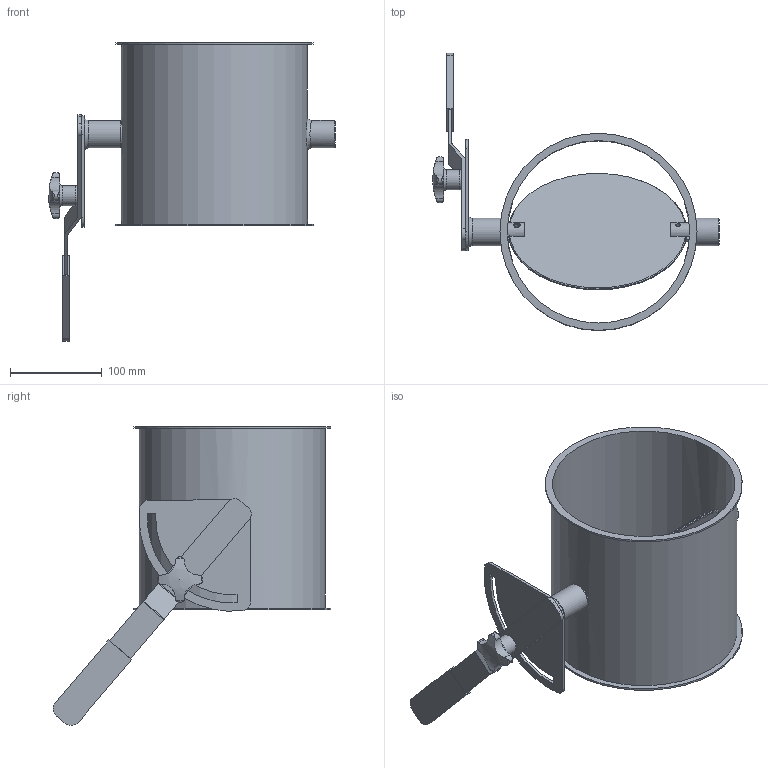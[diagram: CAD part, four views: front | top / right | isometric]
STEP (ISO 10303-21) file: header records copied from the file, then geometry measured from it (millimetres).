
FILE_DESCRIPTION((''),'2;1');
FILE_NAME('U:\Wolfgang\Marcel-3D\fertig\Kapitel 8\2021075.stp','2012-01-13T11:09:27',('iwienholt'),(''),'Autodesk Inventor 2010','Autodesk Inventor 2010','');
FILE_SCHEMA(('AUTOMOTIVE_DESIGN { 1 0 10303 214 1 1 1 1 }'));
Length unit declared in the file: millimetre
Products named in the file (7): 2021075; 2021075-1; Bolzen D20; ganter_din_6335-ku-50-m10-k; Griff D20; Scheibe200; Umstellsegment D20
Assembly tree (6 placements, depth 2):
  2021075
    2021075-1
    Bolzen D20
    ganter_din_6335-ku-50-m10-k
    Griff D20
    Scheibe200
    Umstellsegment D20
Bounding box: 313 x 302.75 x 326.07 mm (x, y, z)
Volume: 518986.7 mm3; surface area: 401288.8 mm2
Topology: 6 solids, 6 shells, 119 faces, 304 edges, 206 vertices
Faces by surface type: plane 51, cylinder 46, torus 9, bspline 7, cone 5, sphere 1
Full cylindrical faces by diameter (mm): 6 x4, 8 x1, 9 x1, 10 x2, 16 x1, 20 x6, 22 x1, 30 x3, 195 x1, 199 x1, 203 x1, 215 x2
Entity records: 4533 total; most frequent: CARTESIAN_POINT 1668, DIRECTION 566, ORIENTED_EDGE 492, EDGE_CURVE 246, AXIS2_PLACEMENT_3D 240, EDGE_LOOP 188, VERTEX_POINT 186, FACE_OUTER_BOUND 119
